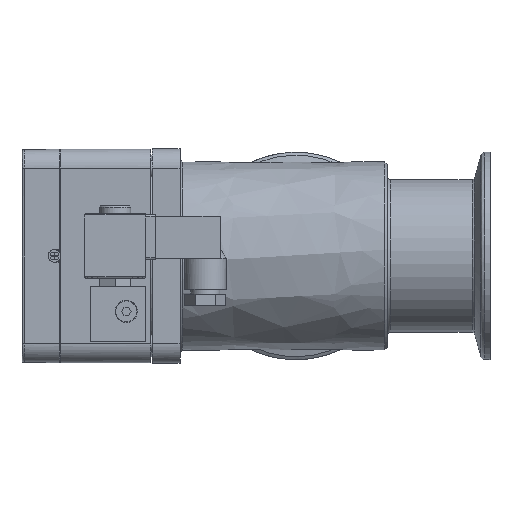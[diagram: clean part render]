
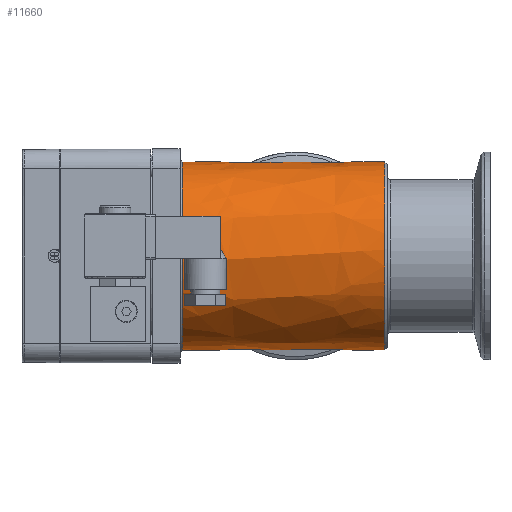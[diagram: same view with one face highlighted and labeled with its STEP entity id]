
A CAD part, left-side view. The second image highlights one B-rep face of the part: STEP entity #11660.
In plain terms, the highlighted free-form (B-spline) face has degree [2, 1] with [7, 2] control points.
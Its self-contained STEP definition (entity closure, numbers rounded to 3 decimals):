
#10971=CARTESIAN_POINT('V33',(38.,33.95,
   0.0));
#10972=VERTEX_POINT('V33',#10971);
#10980=CARTESIAN_POINT('E57',(38.,33.95,
   0.));
#10981=CARTESIAN_POINT('E57',(38.,33.95,
   58.803));
#10982=CARTESIAN_POINT('E57',(38.,-16.975,
   29.402));
#10983=CARTESIAN_POINT('E57',(38.,-67.9,
   0.));
#10984=CARTESIAN_POINT('E57',(38.,-16.975,
   -29.402));
#10985=CARTESIAN_POINT('E57',(38.,33.95,
   -58.803));
#10986=CARTESIAN_POINT('E57',(38.,33.95,
   0.));
#10994=(BOUNDED_CURVE()B_SPLINE_CURVE(2,(#10980,#10981,#10982,
   #10983,#10984,#10985,#10986),.CIRCULAR_ARC.,.T.,.U.)
   B_SPLINE_CURVE_WITH_KNOTS((3,2,2,3),(2.0,50.798,
   99.595,148.393),.UNSPECIFIED.)CURVE()
   GEOMETRIC_REPRESENTATION_ITEM()RATIONAL_B_SPLINE_CURVE((1.0,
   0.5,1.0,0.5,1.0,0.5,1.0)
   )REPRESENTATION_ITEM('E57'));
#10995=EDGE_CURVE('E57',#10972,#10972,#10994,.T.);
#11532=CARTESIAN_POINT('V18',(111.025,33.95,
   0.0));
#11533=VERTEX_POINT('V18',#11532);
#11541=CARTESIAN_POINT('E28',(111.025,33.95,
   0.0));
#11542=CARTESIAN_POINT('E28',(111.025,33.95,
   -58.803));
#11543=CARTESIAN_POINT('E28',(111.025,
   -16.975,-29.402));
#11544=CARTESIAN_POINT('E28',(111.025,
   -67.9,0.));
#11545=CARTESIAN_POINT('E28',(111.025,
   -16.975,29.402));
#11546=CARTESIAN_POINT('E28',(111.025,33.95,
   58.803));
#11547=CARTESIAN_POINT('E28',(111.025,33.95,
   0.0));
#11555=(BOUNDED_CURVE()B_SPLINE_CURVE(2,(#11541,#11542,#11543,
   #11544,#11545,#11546,#11547),.CIRCULAR_ARC.,.T.,.U.)
   B_SPLINE_CURVE_WITH_KNOTS((3,2,2,3),(0.0,108.528,
   217.056,325.585),.UNSPECIFIED.)CURVE()
   GEOMETRIC_REPRESENTATION_ITEM()RATIONAL_B_SPLINE_CURVE((1.0,
   0.5,1.0,0.5,1.0,0.5,1.0)
   )REPRESENTATION_ITEM('E28'));
#11556=EDGE_CURVE('E28',#11533,#11533,#11555,.T.);
#11561=CARTESIAN_POINT('F26',(37.,33.95,
   0.0));
#11562=CARTESIAN_POINT('F26',(37.,33.95,
   58.803));
#11563=CARTESIAN_POINT('F26',(37.,-16.975,
   29.402));
#11564=CARTESIAN_POINT('F26',(37.,-67.9,
   0.));
#11565=CARTESIAN_POINT('F26',(37.,-16.975,
   -29.402));
#11566=CARTESIAN_POINT('F26',(37.,33.95,
   -58.803));
#11567=CARTESIAN_POINT('F26',(37.,33.95,
   0.0));
#11568=CARTESIAN_POINT('F26',(111.025,33.95,
   0.0));
#11569=CARTESIAN_POINT('F26',(111.025,33.95,
   58.803));
#11570=CARTESIAN_POINT('F26',(111.025,
   -16.975,29.402));
#11571=CARTESIAN_POINT('F26',(111.025,
   -67.9,0.));
#11572=CARTESIAN_POINT('F26',(111.025,
   -16.975,-29.402));
#11573=CARTESIAN_POINT('F26',(111.025,33.95,
   -58.803));
#11574=CARTESIAN_POINT('F26',(111.025,33.95,
   0.0));
#11582=(BOUNDED_SURFACE()B_SPLINE_SURFACE(2,1,((#11561,#11568),(
   #11562,#11569),(#11563,#11570),(#11564,#11571),(#11565,
   #11572),(#11566,#11573),(#11567,#11574)),.CYLINDRICAL_SURF.,
   .T.,.F.,.U.)B_SPLINE_SURFACE_WITH_KNOTS((3,2,2,3),(2,2),(0.0,
   1.589,3.177,4.766),(0.0,1.0),
   .UNSPECIFIED.)GEOMETRIC_REPRESENTATION_ITEM()
   RATIONAL_B_SPLINE_SURFACE(((1.0,1.0),(0.5,
   0.5),(1.0,1.0),(0.5,
   0.5),(1.0,1.0),(0.5,
   0.5),(1.0,1.0)))REPRESENTATION_ITEM('F26')SURFACE(
   ));
#11583=ORIENTED_EDGE('E57',*,*,#10995,.F.);
#11584=CARTESIAN_POINT('V31',(45.,33.95,
   0.0));
#11585=VERTEX_POINT('V31',#11584);
#11586=CARTESIAN_POINT('E50',(45.,33.95,
   0.0));
#11587=CARTESIAN_POINT('E50',(38.,33.95,
   0.0));
#11588=B_SPLINE_CURVE_WITH_KNOTS('E50',1,(#11586,#11587),
   .POLYLINE_FORM.,.F.,.U.,(2,2),(0.892,
   0.986),.UNSPECIFIED.);
#11589=EDGE_CURVE('E50',#11585,#10972,#11588,.T.);
#11590=ORIENTED_EDGE('E50',*,*,#11589,.F.);
#11591=CARTESIAN_POINT('V30',(70.,22.97,
   25.));
#11592=VERTEX_POINT('V30',#11591);
#11593=CARTESIAN_POINT('E49',(70.,22.97,
   25.));
#11594=CARTESIAN_POINT('E49',(69.194,22.97,
   25.));
#11595=CARTESIAN_POINT('E49',(68.392,23.012,
   24.961));
#11596=CARTESIAN_POINT('E49',(64.529,23.415,
   24.588));
#11597=CARTESIAN_POINT('E49',(61.719,24.315,
   23.745));
#11598=CARTESIAN_POINT('E49',(55.728,26.853,
   20.895));
#11599=CARTESIAN_POINT('E49',(52.376,28.886,
   18.277));
#11600=CARTESIAN_POINT('E49',(47.986,31.787,
   12.232));
#11601=CARTESIAN_POINT('E49',(46.451,32.891,
   9.169));
#11602=CARTESIAN_POINT('E49',(45.213,33.792,
   3.752));
#11603=CARTESIAN_POINT('E49',(45.,33.95,
   1.886));
#11604=CARTESIAN_POINT('E49',(45.,33.95,
   0.0));
#11605=B_SPLINE_CURVE_WITH_KNOTS('E49',3,(#11593,#11594,#11595,
   #11596,#11597,#11598,#11599,#11600,#11601,#11602,#11603,#11604),
   .UNSPECIFIED.,.F.,.U.,(4,2,2,2,2,4),(0.0,0.062,
   0.301,0.645,0.881,1.0),
   .UNSPECIFIED.);
#11606=EDGE_CURVE('E49',#11592,#11585,#11605,.T.);
#11607=ORIENTED_EDGE('E49',*,*,#11606,.F.);
#11608=CARTESIAN_POINT('V32',(95.,33.95,
   0.0));
#11609=VERTEX_POINT('V32',#11608);
#11610=CARTESIAN_POINT('E53',(95.,33.95,
   0.0));
#11611=CARTESIAN_POINT('E53',(95.,33.95,
   1.622));
#11612=CARTESIAN_POINT('E53',(94.842,33.833,
   3.23));
#11613=CARTESIAN_POINT('E53',(93.819,33.086,
   8.457));
#11614=CARTESIAN_POINT('E53',(92.366,32.035,
   11.572));
#11615=CARTESIAN_POINT('E53',(88.345,29.346,
   17.476));
#11616=CARTESIAN_POINT('E53',(85.368,27.496,
   20.048));
#11617=CARTESIAN_POINT('E53',(79.872,24.916,
   23.124));
#11618=CARTESIAN_POINT('E53',(77.277,23.941,
   24.082));
#11619=CARTESIAN_POINT('E53',(73.032,23.123,
   24.861));
#11620=CARTESIAN_POINT('E53',(71.528,22.97,
   25.));
#11621=CARTESIAN_POINT('E53',(70.,22.97,
   25.));
#11622=B_SPLINE_CURVE_WITH_KNOTS('E53',3,(#11610,#11611,#11612,
   #11613,#11614,#11615,#11616,#11617,#11618,#11619,#11620,#11621),
   .UNSPECIFIED.,.F.,.U.,(4,2,2,2,2,4),(0.0,0.099,
   0.33,0.643,0.876,1.0),
   .UNSPECIFIED.);
#11623=EDGE_CURVE('E53',#11609,#11592,#11622,.T.);
#11624=ORIENTED_EDGE('E53',*,*,#11623,.F.);
#11625=CARTESIAN_POINT('E52',(111.025,33.95,
   0.0));
#11626=CARTESIAN_POINT('E52',(95.,33.95,
   0.0));
#11627=B_SPLINE_CURVE_WITH_KNOTS('E52',1,(#11625,#11626),
   .POLYLINE_FORM.,.F.,.U.,(2,2),(0.0,0.216),
   .UNSPECIFIED.);
#11628=EDGE_CURVE('E52',#11533,#11609,#11627,.T.);
#11629=ORIENTED_EDGE('E52',*,*,#11628,.F.);
#11630=ORIENTED_EDGE('F15',*,*,#11556,.F.);
#11631=ORIENTED_EDGE('E52',*,*,#11628,.T.);
#11632=CARTESIAN_POINT('E51',(45.,33.95,
   0.0));
#11633=CARTESIAN_POINT('E51',(45.,33.95,
   -2.391));
#11634=CARTESIAN_POINT('E51',(45.342,33.696,
   -4.743));
#11635=CARTESIAN_POINT('E51',(46.468,32.882,
   -8.605));
#11636=CARTESIAN_POINT('E51',(47.088,32.438,
   -10.134));
#11637=CARTESIAN_POINT('E51',(49.802,30.554,
   -15.33));
#11638=CARTESIAN_POINT('E51',(52.539,28.745,
   -18.255));
#11639=CARTESIAN_POINT('E51',(58.41,25.609,
   -22.439));
#11640=CARTESIAN_POINT('E51',(61.776,24.142,
   -23.89));
#11641=CARTESIAN_POINT('E51',(66.996,23.11,
   -24.874));
#11642=CARTESIAN_POINT('E51',(68.653,22.947,
   -25.021));
#11643=CARTESIAN_POINT('E51',(71.941,22.996,
   -24.976));
#11644=CARTESIAN_POINT('E51',(73.509,23.188,
   -24.802));
#11645=CARTESIAN_POINT('E51',(77.872,24.123,
   -23.903));
#11646=CARTESIAN_POINT('E51',(80.535,25.184,
   -22.844));
#11647=CARTESIAN_POINT('E51',(85.904,27.818,
   -19.599));
#11648=CARTESIAN_POINT('E51',(88.695,29.572,
   -17.062));
#11649=CARTESIAN_POINT('E51',(92.37,32.043,
   -11.49));
#11650=CARTESIAN_POINT('E51',(93.647,32.963,
   -8.741));
#11651=CARTESIAN_POINT('E51',(94.787,33.792,
   -3.752));
#11652=CARTESIAN_POINT('E51',(95.,33.95,
   -1.886));
#11653=CARTESIAN_POINT('E51',(95.,33.95,
   0.0));
#11654=B_SPLINE_CURVE_WITH_KNOTS('E51',3,(#11632,#11633,#11634,
   #11635,#11636,#11637,#11638,#11639,#11640,#11641,#11642,#11643,
   #11644,#11645,#11646,#11647,#11648,#11649,#11650,#11651,#11652,
   #11653),.UNSPECIFIED.,.F.,.U.,(4,2,2,2,2,2,2,2,2,2,4),(0.0,
   0.082,0.14,0.292,
   0.442,0.51,0.574,
   0.693,0.84,0.942,1.0),
   .UNSPECIFIED.);
#11655=EDGE_CURVE('E51',#11585,#11609,#11654,.T.);
#11656=ORIENTED_EDGE('E51',*,*,#11655,.F.);
#11657=ORIENTED_EDGE('E50',*,*,#11589,.T.);
#11658=EDGE_LOOP('F26',(#11583,#11590,#11607,#11624,#11629,#11630,
   #11631,#11656,#11657));
#11659=FACE_OUTER_BOUND('F26',#11658,.F.);
#11660=ADVANCED_FACE('F26',(#11659),#11582,.T.);
